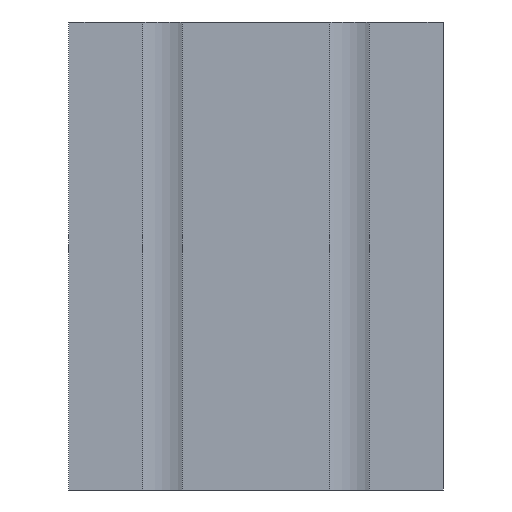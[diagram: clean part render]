
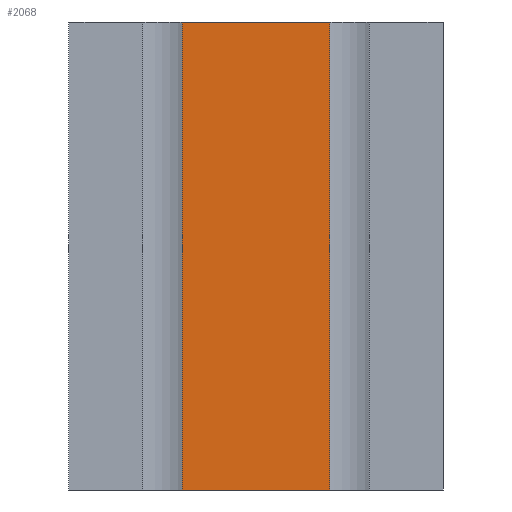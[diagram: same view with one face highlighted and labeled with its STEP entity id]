
A CAD part, front view. The second image highlights one B-rep face of the part: STEP entity #2068.
In plain terms, the highlighted planar face has unit normal (0, -1, 0).
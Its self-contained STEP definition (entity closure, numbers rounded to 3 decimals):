
#344=ORIENTED_EDGE('',*,*,#867,.T.);
#345=ORIENTED_EDGE('',*,*,#866,.T.);
#346=ORIENTED_EDGE('',*,*,#868,.F.);
#347=ORIENTED_EDGE('',*,*,#869,.F.);
#866=EDGE_CURVE('',#1096,#1097,#1324,.T.);
#867=EDGE_CURVE('',#1098,#1096,#1325,.T.);
#868=EDGE_CURVE('',#1099,#1097,#1326,.T.);
#869=EDGE_CURVE('',#1098,#1099,#1327,.T.);
#1096=VERTEX_POINT('',#3205);
#1097=VERTEX_POINT('',#3207);
#1098=VERTEX_POINT('',#3211);
#1099=VERTEX_POINT('',#3213);
#1324=LINE('',#3208,#1576);
#1325=LINE('',#3210,#1577);
#1326=LINE('',#3212,#1578);
#1327=LINE('',#3214,#1579);
#1576=VECTOR('',#2633,1000.);
#1577=VECTOR('',#2636,1000.);
#1578=VECTOR('',#2637,1000.);
#1579=VECTOR('',#2638,1000.);
#1738=EDGE_LOOP('',(#344,#345,#346,#347));
#1866=FACE_BOUND('',#1738,.T.);
#1969=PLANE('',#2217);
#2068=ADVANCED_FACE('',(#1866),#1969,.T.);
#2217=AXIS2_PLACEMENT_3D('',#3209,#2634,#2635);
#2633=DIRECTION('',(0.,0.,1.));
#2634=DIRECTION('',(0.,-1.,0.));
#2635=DIRECTION('',(1.,0.,0.));
#2636=DIRECTION('',(1.,0.,0.));
#2637=DIRECTION('',(1.,0.,0.));
#2638=DIRECTION('',(0.,0.,1.));
#3205=CARTESIAN_POINT('',(15.8,-40.,-50.));
#3207=CARTESIAN_POINT('',(15.8,-40.,50.));
#3208=CARTESIAN_POINT('',(15.8,-40.,0.));
#3209=CARTESIAN_POINT('',(-39.,-40.,0.));
#3210=CARTESIAN_POINT('',(-39.,-40.,-50.));
#3211=CARTESIAN_POINT('',(-15.8,-40.,-50.));
#3212=CARTESIAN_POINT('',(0.,-40.,50.));
#3213=CARTESIAN_POINT('',(-15.8,-40.,50.));
#3214=CARTESIAN_POINT('',(-15.8,-40.,0.));
